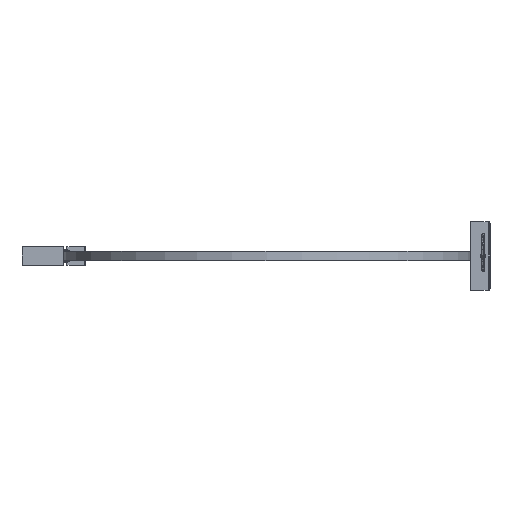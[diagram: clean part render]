
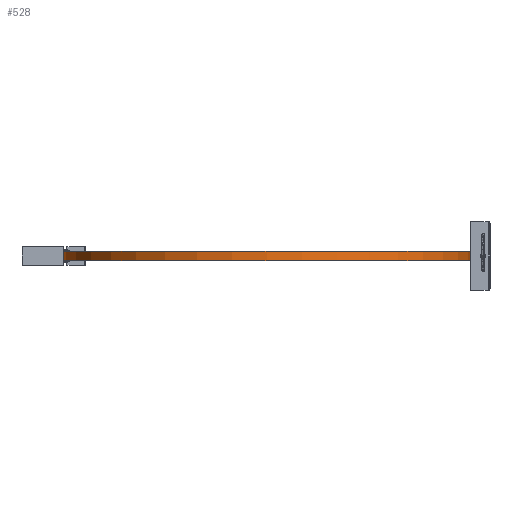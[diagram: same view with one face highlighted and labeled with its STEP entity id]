
A CAD part, left-side view. The second image highlights one B-rep face of the part: STEP entity #528.
In plain terms, the highlighted cylindrical face has radius 222 mm (diameter 444 mm), a partial arc.
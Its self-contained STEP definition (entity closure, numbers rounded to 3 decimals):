
#12 = VERTEX_POINT ( 'NONE', #7508 ) ;
#444 = DIRECTION ( 'NONE',  ( 0., 0., -1. ) ) ;
#528 = ADVANCED_FACE ( 'NONE', ( #8064 ), #5340, .T. ) ;
#760 = VECTOR ( 'NONE', #2790, 1000. ) ;
#944 = ORIENTED_EDGE ( 'NONE', *, *, #3462, .T. ) ;
#1022 = VERTEX_POINT ( 'NONE', #4255 ) ;
#1047 = LINE ( 'NONE', #6773, #6836 ) ;
#1053 = ORIENTED_EDGE ( 'NONE', *, *, #5955, .T. ) ;
#1123 = DIRECTION ( 'NONE',  ( 1., 0., 0. ) ) ;
#1662 = CARTESIAN_POINT ( 'NONE',  ( -61.5, 20., -5. ) ) ;
#2273 = DIRECTION ( 'NONE',  ( 0., 0., -1. ) ) ;
#2470 = DIRECTION ( 'NONE',  ( -1., 0., 0. ) ) ;
#2774 = CIRCLE ( 'NONE', #3432, 222. ) ;
#2790 = DIRECTION ( 'NONE',  ( 0., 0., 1. ) ) ;
#2927 = EDGE_LOOP ( 'NONE', ( #944, #6305, #6538, #1053 ) ) ;
#2964 = CARTESIAN_POINT ( 'NONE',  ( -61.5, 242., -5. ) ) ;
#3350 = AXIS2_PLACEMENT_3D ( 'NONE', #4383, #444, #2470 ) ;
#3432 = AXIS2_PLACEMENT_3D ( 'NONE', #4842, #2273, #3556 ) ;
#3462 = EDGE_CURVE ( 'NONE', #4885, #12, #6009, .T. ) ;
#3556 = DIRECTION ( 'NONE',  ( -1., 0., 0. ) ) ;
#3620 = DIRECTION ( 'NONE',  ( 0., 0., 1. ) ) ;
#4255 = CARTESIAN_POINT ( 'NONE',  ( -61.5, 464., -5. ) ) ;
#4383 = CARTESIAN_POINT ( 'NONE',  ( -61.5, 242., 5. ) ) ;
#4654 = VERTEX_POINT ( 'NONE', #6262 ) ;
#4842 = CARTESIAN_POINT ( 'NONE',  ( -61.5, 242., -5. ) ) ;
#4885 = VERTEX_POINT ( 'NONE', #5061 ) ;
#5061 = CARTESIAN_POINT ( 'NONE',  ( -61.5, 20., 5. ) ) ;
#5340 = CYLINDRICAL_SURFACE ( 'NONE', #7252, 222. ) ;
#5955 = EDGE_CURVE ( 'NONE', #4654, #4885, #7906, .T. ) ;
#6009 = CIRCLE ( 'NONE', #3350, 222. ) ;
#6056 = DIRECTION ( 'NONE',  ( 0., 0., 1. ) ) ;
#6262 = CARTESIAN_POINT ( 'NONE',  ( -61.5, 20., -5. ) ) ;
#6305 = ORIENTED_EDGE ( 'NONE', *, *, #7908, .F. ) ;
#6538 = ORIENTED_EDGE ( 'NONE', *, *, #7974, .F. ) ;
#6773 = CARTESIAN_POINT ( 'NONE',  ( -61.5, 464., -5. ) ) ;
#6836 = VECTOR ( 'NONE', #6056, 1000. ) ;
#7252 = AXIS2_PLACEMENT_3D ( 'NONE', #2964, #3620, #1123 ) ;
#7508 = CARTESIAN_POINT ( 'NONE',  ( -61.5, 464., 5. ) ) ;
#7906 = LINE ( 'NONE', #1662, #760 ) ;
#7908 = EDGE_CURVE ( 'NONE', #1022, #12, #1047, .T. ) ;
#7974 = EDGE_CURVE ( 'NONE', #4654, #1022, #2774, .T. ) ;
#8064 = FACE_OUTER_BOUND ( 'NONE', #2927, .T. ) ;
